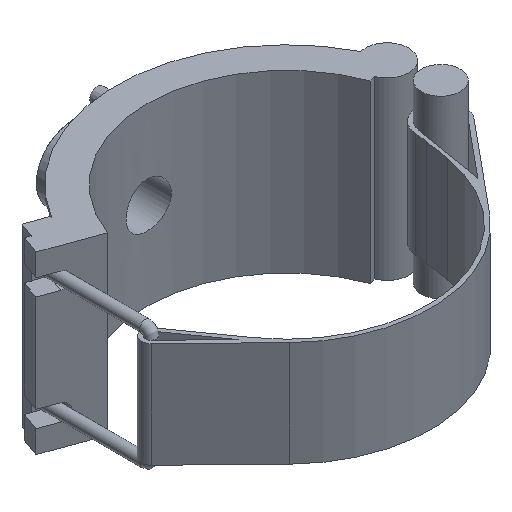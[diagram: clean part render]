
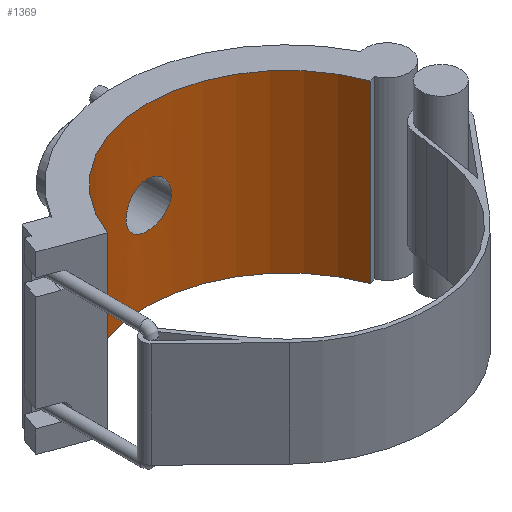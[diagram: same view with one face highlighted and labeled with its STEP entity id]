
A CAD part, isometric view. The second image highlights one B-rep face of the part: STEP entity #1369.
In plain terms, the highlighted cylindrical face has radius 140.3 mm (diameter 280.6 mm), a partial arc.
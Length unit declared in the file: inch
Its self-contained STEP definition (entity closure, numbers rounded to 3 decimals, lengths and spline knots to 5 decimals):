
#27=B_SPLINE_CURVE_WITH_KNOTS('',3,(#2424,#2425,#2426,#2427,#2428,#2429,
#2430,#2431,#2432,#2433,#2434,#2435,#2436,#2437,#2438,#2439,#2440,#2441,
#2442,#2443,#2444,#2445,#2446,#2447,#2448,#2449,#2450,#2451,#2452,#2453,
#2454,#2455,#2456,#2457,#2458,#2459,#2460,#2461,#2462,#2463,#2464,#2465,
#2466,#2467,#2468,#2469,#2470,#2471,#2472,#2473,#2474,#2475,#2476,#2477,
#2478,#2479,#2480,#2481,#2482,#2483,#2484,#2485,#2486,#2487,#2488,#2489),
 .UNSPECIFIED.,.T.,.F.,(4,2,2,2,2,2,2,2,2,2,2,2,2,2,2,2,2,2,2,2,2,2,2,2,
2,2,2,2,2,2,2,2,4),(0.,0.42764,0.85528,1.28293,
1.71057,2.1382,2.56583,2.99347,3.4211,
3.84873,4.27636,4.70399,5.13163,5.55927,
5.98691,6.41455,6.8422,7.26984,7.69748,
8.12512,8.55276,8.9804,9.40803,9.83566,
10.26329,10.69093,11.11856,11.54619,11.97382,
12.40146,12.82911,13.25675,13.68439),
 .UNSPECIFIED.);
#52=CYLINDRICAL_SURFACE('',#1517,5.52362);
#75=FACE_BOUND('',#295,.T.);
#119=CIRCLE('',#1483,5.52362);
#130=CIRCLE('',#1515,5.52362);
#205=FACE_OUTER_BOUND('',#294,.T.);
#294=EDGE_LOOP('',(#1181,#1182,#1183,#1184));
#295=EDGE_LOOP('',(#1185));
#374=LINE('',#2141,#488);
#426=LINE('',#2421,#540);
#488=VECTOR('',#1714,0.3937);
#540=VECTOR('',#1868,0.3937);
#619=VERTEX_POINT('',#2138);
#620=VERTEX_POINT('',#2140);
#641=VERTEX_POINT('',#2210);
#657=VERTEX_POINT('',#2417);
#658=VERTEX_POINT('',#2423);
#764=EDGE_CURVE('',#620,#619,#374,.T.);
#800=EDGE_CURVE('',#620,#641,#119,.T.);
#837=EDGE_CURVE('',#657,#619,#130,.T.);
#838=EDGE_CURVE('',#657,#641,#426,.T.);
#839=EDGE_CURVE('',#658,#658,#27,.T.);
#1181=ORIENTED_EDGE('',*,*,#838,.T.);
#1182=ORIENTED_EDGE('',*,*,#800,.F.);
#1183=ORIENTED_EDGE('',*,*,#764,.T.);
#1184=ORIENTED_EDGE('',*,*,#837,.F.);
#1185=ORIENTED_EDGE('',*,*,#839,.T.);
#1369=ADVANCED_FACE('',(#205,#75),#52,.F.);
#1483=AXIS2_PLACEMENT_3D('',#2211,#1780,#1781);
#1515=AXIS2_PLACEMENT_3D('',#2419,#1864,#1865);
#1517=AXIS2_PLACEMENT_3D('',#2422,#1869,#1870);
#1714=DIRECTION('',(0.,0.,-1.));
#1780=DIRECTION('center_axis',(0.,0.,-1.));
#1781=DIRECTION('ref_axis',(-1.,0.,0.));
#1864=DIRECTION('center_axis',(0.,0.,1.));
#1865=DIRECTION('ref_axis',(-1.,0.,0.));
#1868=DIRECTION('',(0.,0.,1.));
#1869=DIRECTION('center_axis',(0.,0.,1.));
#1870=DIRECTION('ref_axis',(-1.,0.,0.));
#2138=CARTESIAN_POINT('',(-5.19051,1.88919,-3.465));
#2140=CARTESIAN_POINT('',(-5.19051,1.88919,3.465));
#2141=CARTESIAN_POINT('',(-5.19051,1.88919,0.));
#2210=CARTESIAN_POINT('',(5.19051,1.88919,3.465));
#2211=CARTESIAN_POINT('Origin',(0.,0.,3.465));
#2417=CARTESIAN_POINT('',(5.19051,1.88919,-3.465));
#2419=CARTESIAN_POINT('Origin',(0.,0.,-3.465));
#2421=CARTESIAN_POINT('',(5.19051,1.88919,0.));
#2422=CARTESIAN_POINT('Origin',(0.,0.,0.));
#2423=CARTESIAN_POINT('',(0.89222,5.45109,0.));
#2424=CARTESIAN_POINT('Ctrl Pts',(0.89222,5.45109,0.));
#2425=CARTESIAN_POINT('Ctrl Pts',(0.89222,5.45109,-0.05612));
#2426=CARTESIAN_POINT('Ctrl Pts',(0.88684,5.45198,-0.11413));
#2427=CARTESIAN_POINT('Ctrl Pts',(0.86421,5.45561,-0.22945));
#2428=CARTESIAN_POINT('Ctrl Pts',(0.84697,5.45835,-0.28677));
#2429=CARTESIAN_POINT('Ctrl Pts',(0.80141,5.46522,-0.39665));
#2430=CARTESIAN_POINT('Ctrl Pts',(0.77306,5.46936,-0.4493));
#2431=CARTESIAN_POINT('Ctrl Pts',(0.70758,5.47821,-0.54665));
#2432=CARTESIAN_POINT('Ctrl Pts',(0.67045,5.48293,-0.59134));
#2433=CARTESIAN_POINT('Ctrl Pts',(0.59134,5.49202,-0.67045));
#2434=CARTESIAN_POINT('Ctrl Pts',(0.54665,5.49672,-0.70758));
#2435=CARTESIAN_POINT('Ctrl Pts',(0.44931,5.50553,-0.77306));
#2436=CARTESIAN_POINT('Ctrl Pts',(0.39665,5.50964,-0.80141));
#2437=CARTESIAN_POINT('Ctrl Pts',(0.28677,5.51645,-0.84697));
#2438=CARTESIAN_POINT('Ctrl Pts',(0.22945,5.51916,-0.86421));
#2439=CARTESIAN_POINT('Ctrl Pts',(0.11413,5.52274,-0.88684));
#2440=CARTESIAN_POINT('Ctrl Pts',(0.05612,5.52362,-0.89222));
#2441=CARTESIAN_POINT('Ctrl Pts',(-0.05612,5.52362,
-0.89222));
#2442=CARTESIAN_POINT('Ctrl Pts',(-0.11413,5.52274,-0.88684));
#2443=CARTESIAN_POINT('Ctrl Pts',(-0.22945,5.51916,-0.86421));
#2444=CARTESIAN_POINT('Ctrl Pts',(-0.28677,5.51645,-0.84697));
#2445=CARTESIAN_POINT('Ctrl Pts',(-0.39665,5.50964,-0.80141));
#2446=CARTESIAN_POINT('Ctrl Pts',(-0.44931,5.50553,-0.77306));
#2447=CARTESIAN_POINT('Ctrl Pts',(-0.54665,5.49672,-0.70758));
#2448=CARTESIAN_POINT('Ctrl Pts',(-0.59134,5.49202,-0.67045));
#2449=CARTESIAN_POINT('Ctrl Pts',(-0.67045,5.48293,-0.59134));
#2450=CARTESIAN_POINT('Ctrl Pts',(-0.70758,5.47821,-0.54665));
#2451=CARTESIAN_POINT('Ctrl Pts',(-0.77306,5.46936,-0.4493));
#2452=CARTESIAN_POINT('Ctrl Pts',(-0.80141,5.46522,-0.39665));
#2453=CARTESIAN_POINT('Ctrl Pts',(-0.84697,5.45835,-0.28677));
#2454=CARTESIAN_POINT('Ctrl Pts',(-0.86421,5.45561,-0.22945));
#2455=CARTESIAN_POINT('Ctrl Pts',(-0.88684,5.45198,-0.11413));
#2456=CARTESIAN_POINT('Ctrl Pts',(-0.89222,5.45109,-0.05612));
#2457=CARTESIAN_POINT('Ctrl Pts',(-0.89222,5.45109,0.05612));
#2458=CARTESIAN_POINT('Ctrl Pts',(-0.88684,5.45198,0.11413));
#2459=CARTESIAN_POINT('Ctrl Pts',(-0.86421,5.45561,0.22945));
#2460=CARTESIAN_POINT('Ctrl Pts',(-0.84697,5.45835,0.28677));
#2461=CARTESIAN_POINT('Ctrl Pts',(-0.80141,5.46522,0.39665));
#2462=CARTESIAN_POINT('Ctrl Pts',(-0.77306,5.46936,0.4493));
#2463=CARTESIAN_POINT('Ctrl Pts',(-0.70758,5.47821,0.54665));
#2464=CARTESIAN_POINT('Ctrl Pts',(-0.67045,5.48293,0.59134));
#2465=CARTESIAN_POINT('Ctrl Pts',(-0.59134,5.49202,0.67045));
#2466=CARTESIAN_POINT('Ctrl Pts',(-0.54665,5.49672,0.70758));
#2467=CARTESIAN_POINT('Ctrl Pts',(-0.44931,5.50553,0.77306));
#2468=CARTESIAN_POINT('Ctrl Pts',(-0.39665,5.50964,0.80141));
#2469=CARTESIAN_POINT('Ctrl Pts',(-0.28677,5.51645,0.84697));
#2470=CARTESIAN_POINT('Ctrl Pts',(-0.22945,5.51916,0.86421));
#2471=CARTESIAN_POINT('Ctrl Pts',(-0.11413,5.52274,0.88684));
#2472=CARTESIAN_POINT('Ctrl Pts',(-0.05612,5.52362,
0.89222));
#2473=CARTESIAN_POINT('Ctrl Pts',(0.05612,5.52362,0.89222));
#2474=CARTESIAN_POINT('Ctrl Pts',(0.11413,5.52274,0.88684));
#2475=CARTESIAN_POINT('Ctrl Pts',(0.22945,5.51916,0.86421));
#2476=CARTESIAN_POINT('Ctrl Pts',(0.28677,5.51645,0.84697));
#2477=CARTESIAN_POINT('Ctrl Pts',(0.39665,5.50964,0.80141));
#2478=CARTESIAN_POINT('Ctrl Pts',(0.44931,5.50553,0.77306));
#2479=CARTESIAN_POINT('Ctrl Pts',(0.54665,5.49672,0.70758));
#2480=CARTESIAN_POINT('Ctrl Pts',(0.59134,5.49202,0.67045));
#2481=CARTESIAN_POINT('Ctrl Pts',(0.67045,5.48293,0.59134));
#2482=CARTESIAN_POINT('Ctrl Pts',(0.70758,5.47821,0.54665));
#2483=CARTESIAN_POINT('Ctrl Pts',(0.77306,5.46936,0.4493));
#2484=CARTESIAN_POINT('Ctrl Pts',(0.80141,5.46522,0.39665));
#2485=CARTESIAN_POINT('Ctrl Pts',(0.84697,5.45835,0.28677));
#2486=CARTESIAN_POINT('Ctrl Pts',(0.86421,5.45561,0.22945));
#2487=CARTESIAN_POINT('Ctrl Pts',(0.88684,5.45198,0.11413));
#2488=CARTESIAN_POINT('Ctrl Pts',(0.89222,5.45109,0.05612));
#2489=CARTESIAN_POINT('Ctrl Pts',(0.89222,5.45109,0.));
